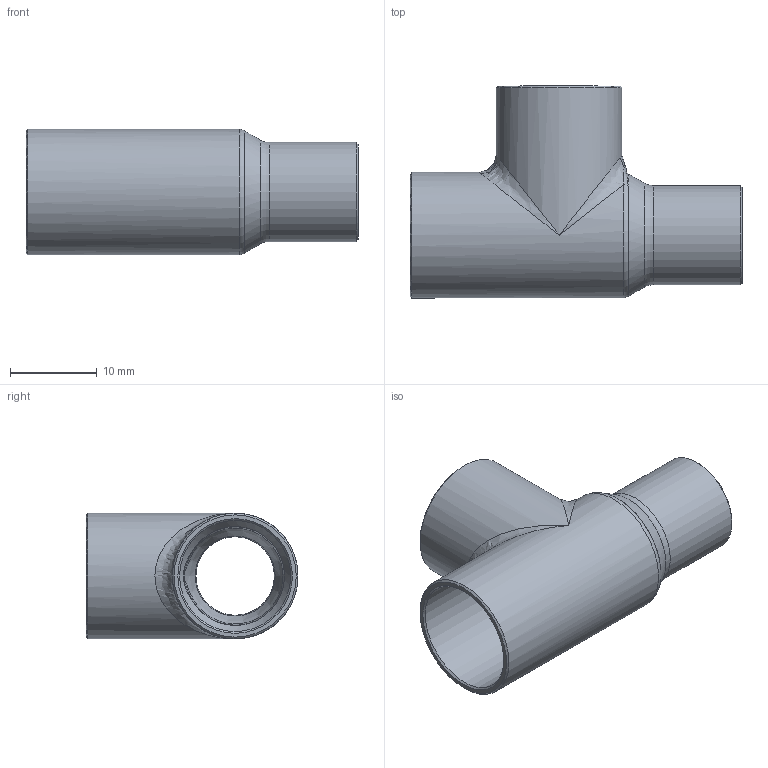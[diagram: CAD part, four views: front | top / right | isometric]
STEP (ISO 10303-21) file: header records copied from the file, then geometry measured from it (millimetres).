
FILE_DESCRIPTION((''),'2;1');
FILE_NAME('G:\SANHA-Ternat\Technik\Management\Bouwmaten + markeringen\z-maattekeningen 3D\29000s\2913012123_3d.stp','2017-07-31T15:13:46',('vdvijverd'),(''),'Autodesk Inventor 2009','Autodesk Inventor 2009','');
FILE_SCHEMA(('AUTOMOTIVE_DESIGN { 1 0 10303 214 1 1 1 1 }'));
Length unit declared in the file: millimetre
Products named in the file (1): 2913012123_3d
Bounding box: 38.3 x 24.45 x 14.5 mm (x, y, z)
Volume: 2044.8 mm3; surface area: 3825 mm2
Topology: 1 solids, 1 shells, 39 faces, 100 edges, 54 vertices
Faces by surface type: cone 11, bspline 11, cylinder 9, plane 4, torus 4
Full cylindrical faces by diameter (mm): 9.645 x1, 11.445 x1, 12.82 x2, 14.5 x2
Entity records: 2069 total; most frequent: CARTESIAN_POINT 1296, DIRECTION 154, ORIENTED_EDGE 132, AXIS2_PLACEMENT_3D 77, EDGE_CURVE 66, EDGE_LOOP 62, VERTEX_POINT 48, FACE_OUTER_BOUND 39
